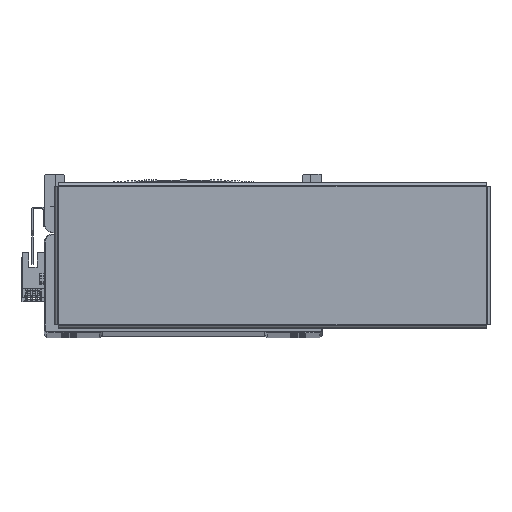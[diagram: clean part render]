
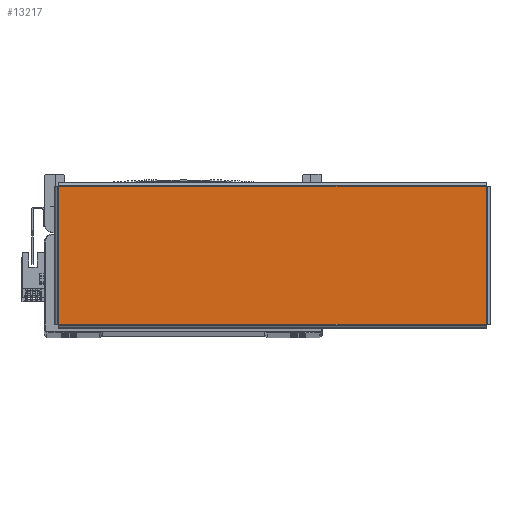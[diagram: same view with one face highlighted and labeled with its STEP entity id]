
A CAD part, top view. The second image highlights one B-rep face of the part: STEP entity #13217.
In plain terms, the highlighted planar face has unit normal (0, 0, 1) as drawn and (0, -1, 0) by its records, which use the part's own axes.
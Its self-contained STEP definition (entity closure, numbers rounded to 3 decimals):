
#8927 = EDGE_CURVE ( 'NONE', #44092, #44043, #49679, .T. ) ;
#8944 = EDGE_CURVE ( 'NONE', #44043, #44074, #49741, .T. ) ;
#8966 = EDGE_CURVE ( 'NONE', #44074, #44036, #49736, .T. ) ;
#8967 = EDGE_CURVE ( 'NONE', #44036, #44092, #49738, .T. ) ;
#13217 = ADVANCED_FACE ( 'NONE', ( #62122 ), #50760, .F. ) ;
#25698 = CARTESIAN_POINT ( 'NONE',  ( -130.863, -1.5, -42.263 ) ) ;
#25701 = CARTESIAN_POINT ( 'NONE',  ( 130.863, -1.5, 42.263 ) ) ;
#25724 = CARTESIAN_POINT ( 'NONE',  ( 130.863, -1.5, -42.263 ) ) ;
#25725 = CARTESIAN_POINT ( 'NONE',  ( -130.863, -1.5, 42.263 ) ) ;
#44036 = VERTEX_POINT ( 'NONE', #25724 ) ;
#44043 = VERTEX_POINT ( 'NONE', #25725 ) ;
#44074 = VERTEX_POINT ( 'NONE', #25698 ) ;
#44092 = VERTEX_POINT ( 'NONE', #25701 ) ;
#48412 = EDGE_LOOP ( 'NONE', ( #53945, #53910, #53931, #53965 ) ) ;
#49679 = LINE ( 'NONE', #65319, #49691 ) ;
#49691 = VECTOR ( 'NONE', #65356, 1000. ) ;
#49736 = LINE ( 'NONE', #65413, #49761 ) ;
#49738 = LINE ( 'NONE', #65416, #49750 ) ;
#49741 = LINE ( 'NONE', #65349, #49752 ) ;
#49750 = VECTOR ( 'NONE', #65414, 1000. ) ;
#49752 = VECTOR ( 'NONE', #65359, 1000. ) ;
#49761 = VECTOR ( 'NONE', #65434, 1000. ) ;
#50760 = PLANE ( 'NONE',  #63251 ) ;
#50761 = CARTESIAN_POINT ( 'NONE',  ( 0., -1.5, 0. ) ) ;
#50853 = DIRECTION ( 'NONE',  ( 0., 1., 0. ) ) ;
#50858 = DIRECTION ( 'NONE',  ( 0., 0., 1. ) ) ;
#53910 = ORIENTED_EDGE ( 'NONE', *, *, #8927, .T. ) ;
#53931 = ORIENTED_EDGE ( 'NONE', *, *, #8944, .T. ) ;
#53945 = ORIENTED_EDGE ( 'NONE', *, *, #8967, .T. ) ;
#53965 = ORIENTED_EDGE ( 'NONE', *, *, #8966, .T. ) ;
#62122 = FACE_OUTER_BOUND ( 'NONE', #48412, .T. ) ;
#63251 = AXIS2_PLACEMENT_3D ( 'NONE', #50761, #50853, #50858 ) ;
#65319 = CARTESIAN_POINT ( 'NONE',  ( 130.893, -1.5, 42.263 ) ) ;
#65349 = CARTESIAN_POINT ( 'NONE',  ( -130.863, -1.5, 42.293 ) ) ;
#65356 = DIRECTION ( 'NONE',  ( -1., 0., 0. ) ) ;
#65359 = DIRECTION ( 'NONE',  ( 0., 0., -1. ) ) ;
#65413 = CARTESIAN_POINT ( 'NONE',  ( -130.893, -1.5, -42.263 ) ) ;
#65414 = DIRECTION ( 'NONE',  ( 0., 0., 1. ) ) ;
#65416 = CARTESIAN_POINT ( 'NONE',  ( 130.863, -1.5, -42.293 ) ) ;
#65434 = DIRECTION ( 'NONE',  ( 1., 0., 0. ) ) ;
